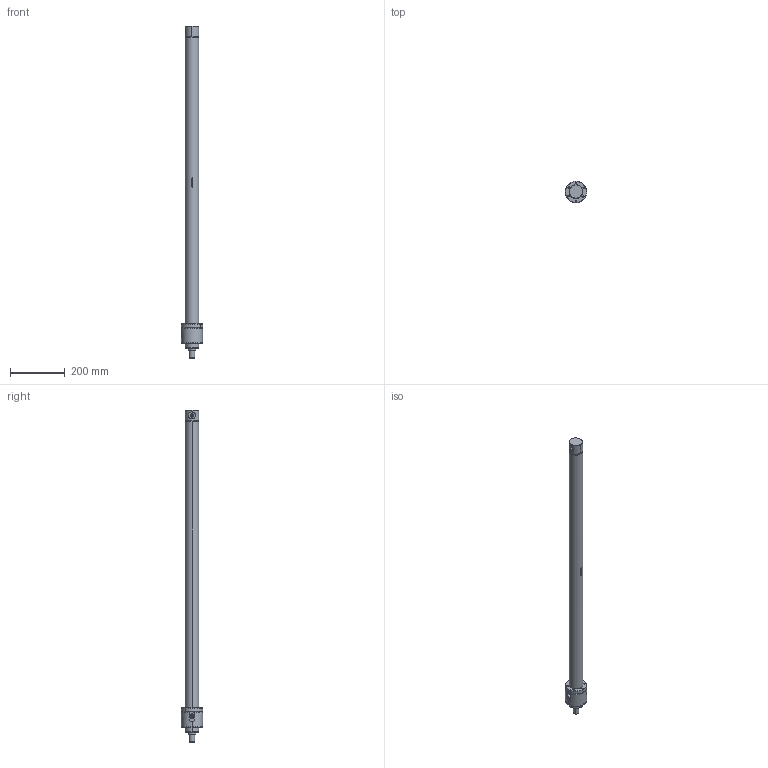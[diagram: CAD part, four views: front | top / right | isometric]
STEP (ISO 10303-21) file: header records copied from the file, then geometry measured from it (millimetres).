
FILE_DESCRIPTION (( 'STEP AP214' ), '1' );
FILE_NAME ('40_28_1000_WEB.STEP', '2020-08-05T10:32:58', ( '' ), ( '' ), 'SwSTEP 2.0', 'SolidWorks 2018', '' );
FILE_SCHEMA (( 'AUTOMOTIVE_DESIGN' ));
Length unit declared in the file: millimetre
Products named in the file (11): FLANS; 40_28_1000_WEB; KASTAS-K32-28X38X6; 40_25_HON_BORU_WEB; KASTAS-K06-28X36_6X5_3X7; Kastas Seals-K68-28X32X9_7; 40_烰_KAPAK; KASTAS-K84-32_8X40X3_4; 28_K_MIL_WEB; Assem1; TYAK_40_50
Assembly tree (11 placements, depth 3):
  40_28_1000_WEB
    40_25_HON_BORU_WEB
    28_K_MIL_WEB
    Assem1
      40_烰_KAPAK
      KASTAS-K06-28X36_6X5_3X7
      KASTAS-K32-28X38X6
      Kastas Seals-K68-28X32X9_7  x2
      KASTAS-K84-32_8X40X3_4
    FLANS
    TYAK_40_50
Bounding box: 78 x 78 x 1218 mm (x, y, z)
Volume: 1136752.9 mm3; surface area: 388712.4 mm2
Topology: 10 solids, 10 shells, 483 faces, 1177 edges, 751 vertices
Faces by surface type: plane 143, cylinder 130, cone 103, bspline 103, torus 4
Entity records: 21002 total; most frequent: CARTESIAN_POINT 8059, ORIENTED_EDGE 2258, DIRECTION 2058, EDGE_CURVE 1129, AXIS2_PLACEMENT_3D 795, VERTEX_POINT 720, EDGE_LOOP 541, LINE 468
